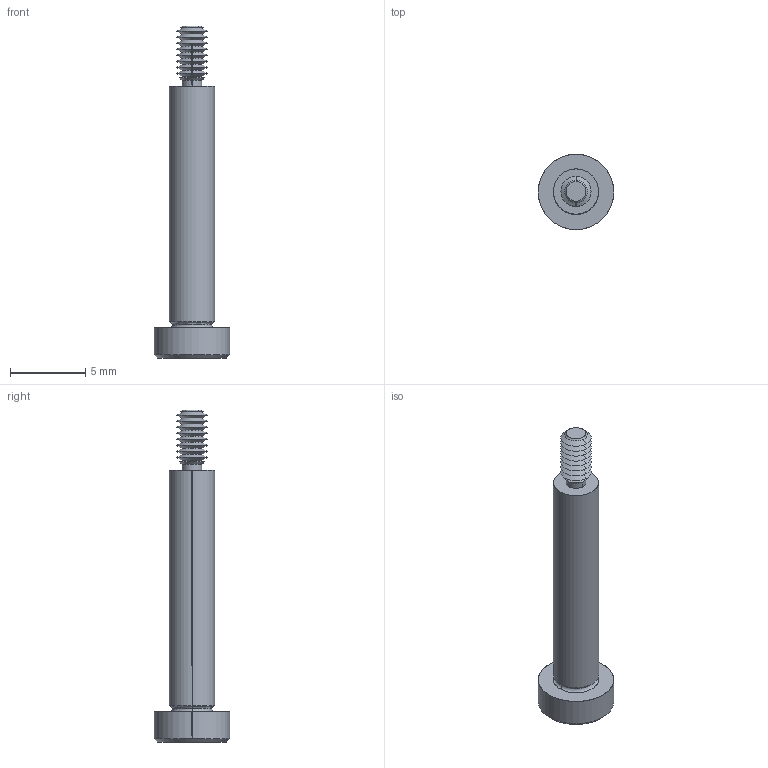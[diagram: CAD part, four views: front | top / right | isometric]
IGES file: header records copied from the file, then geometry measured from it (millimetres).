
Start section: SolidWorks IGES file using analytic representation for surfaces
Global section: file name: C:\Users\IanO\Documents\Temp Folder\GENERAL\SCREW REVISION\P0130_v2\P0130.T5_v2_20220106_IGES\P0130.030-016-T5.igs; native system: SolidWorks 2019; preprocessor: SolidWorks 2019; author: IanO; date: 220106.220207; units: millimetre
Bounding box: 5 x 5 x 22 mm (x, y, z)
Surface area: 267.1 mm2 (no closed solid volume)
Topology: 0 solids, 0 shells, 76 faces, 508 edges, 506 vertices
Faces by surface type: revolution 56, bspline 20
